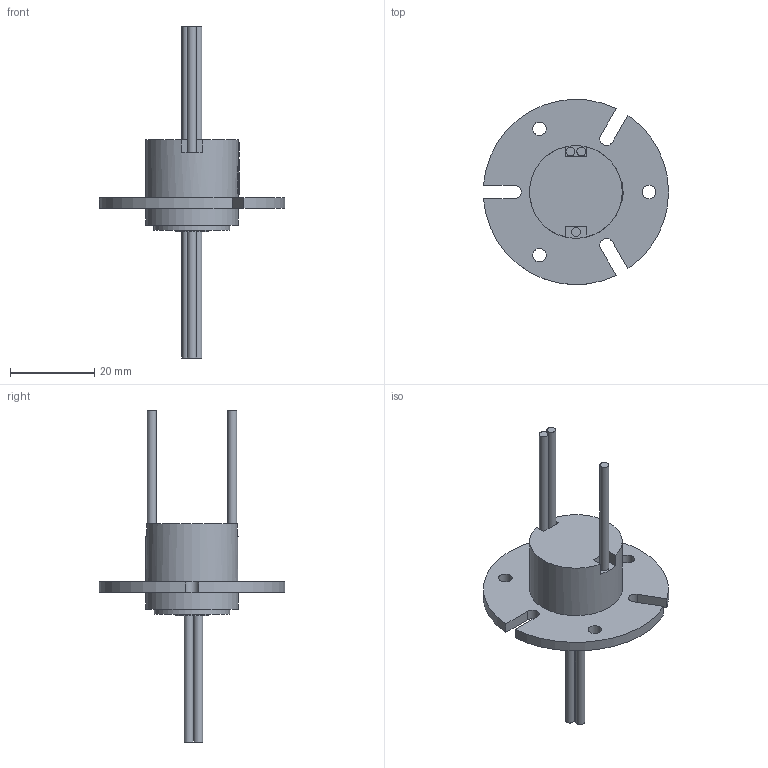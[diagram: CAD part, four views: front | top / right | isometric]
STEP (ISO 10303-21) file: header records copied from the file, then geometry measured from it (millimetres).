
FILE_DESCRIPTION(/* description */ (''),/* implementation_level */ '2;1');
FILE_NAME(/* name */ 'YM022-0315.stp',/* time_stamp */ '2025-09-22T18:31:59+08:00',/* author */ (''),/* organization */ (''),/* preprocessor_version */ 'ST-DEVELOPER v16.7',/* originating_system */ 'SIEMENS PLM Software NX 12.0',/* authorisation */ '');
FILE_SCHEMA (('AUTOMOTIVE_DESIGN { 1 0 10303 214 3 1 1 1 }'));
Length unit declared in the file: millimetre
Products named in the file (1): Admi33B4A770ys7x
Bounding box: 43.94 x 43.97 x 78.8 mm (x, y, z)
Volume: 11167.6 mm3; surface area: 5929.6 mm2
Topology: 1 solids, 1 shells, 726 faces, 2017 edges, 1346 vertices
Faces by surface type: extrusion 450, plane 212, cylinder 35, bspline 29
Full cylindrical faces by diameter (mm): 2.1 x6, 3.2 x3, 7.8 x1, 18 x1, 22 x2
Entity records: 30779 total; most frequent: CARTESIAN_POINT 15463, ORIENTED_EDGE 3986, B_SPLINE_CURVE_WITH_KNOTS 2116, EDGE_CURVE 1993, DIRECTION 1444, VERTEX_POINT 1337, EDGE_LOOP 800, ADVANCED_FACE 726
